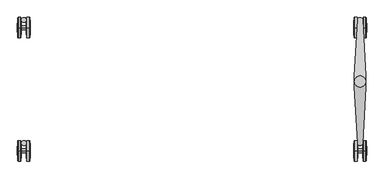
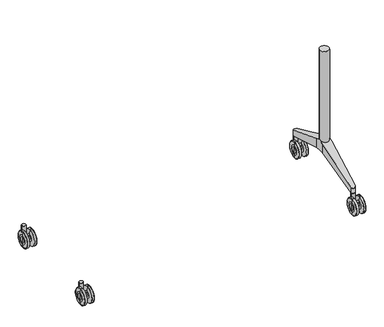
"""IFC4 building model written with IfcOpenShell, lengths in millimetres: furniture geometry."""

from ifc_helpers import new_model, si_unit, point, frame, frame_2d, origin, place, context, project, spatial, polyline, circle_curve, ellipse_curve, trimmed, segment, composite_curve, outline, extrude, source, transform, mapped, element, save
from ifc_brep_helpers import plane_surface, cylinder_surface, revolved_surface, advanced_brep


def furniture_b5b4e11f(model_context):
    return source(origin(), model_context, "Body", "SolidModel", [
        advanced_brep(
        [(630.3656519, 335.7555331, 26.9613134), (630.3656519, 335.7555331, 40.0000164), (630.3656519, 335.7555331, 53.0387194), (632.497176, 335.7555331, 0.8972162), (630.9247587, 335.7555331, 16.1123581), (630.9247587, 335.7555331, 63.8876748), (632.497176, 335.7555331, 79.1028166), (643.4565603, 335.7555331, 1.43e-05), (633.4918783, 335.7555331, 1.43e-05), (633.4918783, 335.7555331, 80.0000185), (643.4565603, 335.7555331, 80.0000185), (645.3656811, 335.7555331, 20.9999281), (645.3656811, 335.7555331, 59.0001048), (645.3656811, 335.7555331, 32.3463502), (645.3656811, 335.7555331, 47.6536826), (665.2657019, 335.7555331, 32.3463502), (665.2657019, 335.7555331, 47.6536826), (665.2657019, 335.7555331, 20.9999281), (665.2657019, 335.7555331, 59.0001048), (667.1748226, 335.7555331, 1.43e-05), (667.1748226, 335.7555331, 80.0000185), (676.2375243, 335.7555331, 1.43e-05), (676.2375243, 335.7555331, 80.0000185), (679.706818, 335.7555331, 16.1142331), (678.2269288, 335.7555331, 1.7944182), (678.2269288, 335.7555331, 78.2056147), (679.706818, 335.7555331, 63.8857997), (680.265731, 335.7555331, 40.0000164), (680.265731, 335.7555331, 26.9594284), (680.265731, 335.7555331, 53.0406045)],
        [
            (0, 1),
            (1, 2),
            (2, 0, circle_curve(frame((630.3656519, 335.7555331, 40.0000164), z_axis=(-1.0, 0.0, 0.0), x_axis=(0.0, 0.0, 1.0)), 13.038703)),
            (0, 2, circle_curve(frame((630.3656519, 335.7555331, 40.0000164), z_axis=(-1.0, 0.0, 0.0), x_axis=(0.0, 0.0, 1.0)), 13.038703)),
            (3, 4),
            (4, 5, circle_curve(frame((630.9247587, 335.7555331, 40.0000164), z_axis=(1.0, 0.0, 0.0), x_axis=(0.0, 0.0, 1.0)), 23.8876584)),
            (5, 6),
            (6, 3, circle_curve(frame((632.497176, 335.7555331, 40.0000164), z_axis=(-1.0, 0.0, 0.0), x_axis=(0.0, 0.0, 1.0)), 39.1028002)),
            (5, 4, circle_curve(frame((630.9247587, 335.7555331, 40.0000164), z_axis=(1.0, 0.0, 0.0), x_axis=(0.0, 0.0, 1.0)), 23.8876584)),
            (3, 6, circle_curve(frame((632.497176, 335.7555331, 40.0000164), z_axis=(-1.0, 0.0, 0.0), x_axis=(0.0, 0.0, 1.0)), 39.1028002)),
            (7, 8),
            (8, 9, circle_curve(frame((633.4918783, 335.7555331, 40.0000164), z_axis=(1.0, 0.0, 0.0), x_axis=(0.0, 0.0, 1.0)), 40.0000021)),
            (9, 10),
            (10, 7, circle_curve(frame((643.4565603, 335.7555331, 40.0000164), z_axis=(-1.0, 0.0, 0.0), x_axis=(0.0, 0.0, 1.0)), 40.0000021)),
            (9, 8, circle_curve(frame((633.4918783, 335.7555331, 40.0000164), z_axis=(1.0, 0.0, 0.0), x_axis=(0.0, 0.0, 1.0)), 40.0000021)),
            (7, 10, circle_curve(frame((643.4565603, 335.7555331, 40.0000164), z_axis=(-1.0, 0.0, 0.0), x_axis=(0.0, 0.0, 1.0)), 40.0000021)),
            (11, 7),
            (10, 12),
            (12, 11, circle_curve(frame((645.3656811, 335.7555331, 40.0000164), z_axis=(-1.0, 0.0, 0.0), x_axis=(0.0, 0.0, 1.0)), 19.0000883)),
            (11, 12, circle_curve(frame((645.3656811, 335.7555331, 40.0000164), z_axis=(-1.0, 0.0, 0.0), x_axis=(0.0, 0.0, 1.0)), 19.0000883)),
            (13, 11),
            (12, 14),
            (14, 13, circle_curve(frame((645.3656811, 335.7555331, 40.0000164), z_axis=(-1.0, 0.0, 0.0), x_axis=(0.0, 0.0, 1.0)), 7.6536662)),
            (13, 14, circle_curve(frame((645.3656811, 335.7555331, 40.0000164), z_axis=(-1.0, 0.0, 0.0), x_axis=(0.0, 0.0, 1.0)), 7.6536662)),
            (15, 13),
            (14, 16),
            (16, 15, circle_curve(frame((665.2657019, 335.7555331, 40.0000164), z_axis=(-1.0, 0.0, 0.0), x_axis=(0.0, 0.0, 1.0)), 7.6536662)),
            (15, 16, circle_curve(frame((665.2657019, 335.7555331, 40.0000164), z_axis=(-1.0, 0.0, 0.0), x_axis=(0.0, 0.0, 1.0)), 7.6536662)),
            (17, 15),
            (16, 18),
            (18, 17, circle_curve(frame((665.2657019, 335.7555331, 40.0000164), z_axis=(-1.0, 0.0, 0.0), x_axis=(0.0, 0.0, 1.0)), 19.0000883)),
            (17, 18, circle_curve(frame((665.2657019, 335.7555331, 40.0000164), z_axis=(-1.0, 0.0, 0.0), x_axis=(0.0, 0.0, 1.0)), 19.0000883)),
            (19, 17),
            (18, 20),
            (20, 19, circle_curve(frame((667.1748226, 335.7555331, 40.0000164), z_axis=(-1.0, 0.0, 0.0), x_axis=(0.0, 0.0, 1.0)), 40.0000021)),
            (19, 20, circle_curve(frame((667.1748226, 335.7555331, 40.0000164), z_axis=(-1.0, 0.0, 0.0), x_axis=(0.0, 0.0, 1.0)), 40.0000021)),
            (21, 19),
            (20, 22),
            (22, 21, circle_curve(frame((676.2375243, 335.7555331, 40.0000164), z_axis=(-1.0, 0.0, 0.0), x_axis=(0.0, 0.0, 1.0)), 40.0000021)),
            (21, 22, circle_curve(frame((676.2375243, 335.7555331, 40.0000164), z_axis=(-1.0, 0.0, 0.0), x_axis=(0.0, 0.0, 1.0)), 40.0000021)),
            (23, 24),
            (24, 25, circle_curve(frame((678.2269288, 335.7555331, 40.0000164), z_axis=(1.0, 0.0, 0.0), x_axis=(0.0, 0.0, 1.0)), 38.2055982)),
            (25, 26),
            (26, 23, circle_curve(frame((679.706818, 335.7555331, 40.0000164), z_axis=(-1.0, 0.0, 0.0), x_axis=(0.0, 0.0, 1.0)), 23.8857833)),
            (25, 24, circle_curve(frame((678.2269288, 335.7555331, 40.0000164), z_axis=(1.0, 0.0, 0.0), x_axis=(0.0, 0.0, 1.0)), 38.2055982)),
            (23, 26, circle_curve(frame((679.706818, 335.7555331, 40.0000164), z_axis=(-1.0, 0.0, 0.0), x_axis=(0.0, 0.0, 1.0)), 23.8857833)),
            (27, 28),
            (28, 29, circle_curve(frame((680.265731, 335.7555331, 40.0000164), z_axis=(1.0, 0.0, 0.0), x_axis=(0.0, 0.0, 1.0)), 13.0405881)),
            (29, 27),
            (29, 28, circle_curve(frame((680.265731, 335.7555331, 40.0000164), z_axis=(1.0, 0.0, 0.0), x_axis=(0.0, 0.0, 1.0)), 13.0405881)),
            (4, 0, circle_curve(frame((735.9022296, 335.7555331, 26.9613134), z_axis=(0.0, 1.0000000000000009, 0.0), x_axis=(-1.0000000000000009, 0.0, 0.0)), 105.5365777)),
            (2, 5, circle_curve(frame((735.9022296, 335.7555331, 53.0387194), z_axis=(0.0, 1.0000000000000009, 0.0), x_axis=(-1.0000000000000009, 0.0, 0.0)), 105.5365777)),
            (8, 3, circle_curve(frame((633.4918783, 335.7555331, 1.0000143), z_axis=(0.0, 1.0000000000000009, 0.0), x_axis=(-1.0000000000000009, 0.0, 0.0)), 1.0)),
            (6, 9, circle_curve(frame((633.4918783, 335.7555331, 79.0000185), z_axis=(0.0, 1.0000000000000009, 0.0), x_axis=(-1.0000000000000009, 0.0, 0.0)), 1.0)),
            (24, 21, circle_curve(frame((676.2375243, 335.7555331, 2.0000143), z_axis=(0.0, 1.0000000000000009, 0.0), x_axis=(-1.0000000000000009, 0.0, 0.0)), 2.0)),
            (22, 25, circle_curve(frame((676.2375243, 335.7555331, 78.0000185), z_axis=(0.0, 1.0000000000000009, 0.0), x_axis=(-1.0000000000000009, 0.0, 0.0)), 2.0)),
            (28, 23, circle_curve(frame((574.765731, 335.7555331, 26.9594284), z_axis=(0.0, 1.0000000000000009, 0.0), x_axis=(-1.0000000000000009, 0.0, 0.0)), 105.5)),
            (26, 29, circle_curve(frame((574.765731, 335.7555331, 53.0406045), z_axis=(0.0, 1.0000000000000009, 0.0), x_axis=(-1.0000000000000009, 0.0, 0.0)), 105.5)),
        ],
        [
            plane_surface(frame((630.3656519, 335.7555331, 40.0000164), z_axis=(-1.0, 0.0, 0.0), x_axis=(0.0, 0.0, 1.0))),
            revolved_surface(polyline([(630.9247587, 335.7555331, 63.8876748), (632.497176, 335.7555331, 79.1028166)]), (696.0657036, 335.7555331, 40.0000164), (1.0000000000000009, 0.0, 0.0)),
            cylinder_surface(frame((696.0657036, 335.7555331, 40.0000164), z_axis=(1.0000000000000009, 0.0, 0.0), x_axis=(0.0, 0.0, 1.0)), 40.0000021),
            revolved_surface(polyline([(643.4565603, 335.7555331, 80.0000185), (645.3656811, 335.7555331, 59.0001048)]), (696.0657036, 335.7555331, 40.0000164), (1.0000000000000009, 0.0, 0.0)),
            plane_surface(frame((645.3656811, 335.7555331, 40.0000164), z_axis=(1.0, 0.0, 0.0), x_axis=(0.0, 0.0, 1.0))),
            cylinder_surface(frame((696.0657036, 335.7555331, 40.0000164), z_axis=(1.0000000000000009, 0.0, 0.0), x_axis=(0.0, 0.0, 1.0)), 7.6536662),
            plane_surface(frame((665.2657019, 335.7555331, 40.0000164), z_axis=(-1.0, 0.0, 0.0), x_axis=(0.0, 0.0, 1.0))),
            revolved_surface(polyline([(665.2657019, 335.7555331, 59.0001048), (667.1748226, 335.7555331, 80.0000185)]), (696.0657036, 335.7555331, 40.0000164), (1.0000000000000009, 0.0, 0.0)),
            revolved_surface(polyline([(678.2269288, 335.7555331, 78.2056147), (679.706818, 335.7555331, 63.8857997)]), (696.0657036, 335.7555331, 40.0000164), (1.0000000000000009, 0.0, 0.0)),
            plane_surface(frame((680.265731, 335.7555331, 40.0000164), z_axis=(1.0, 0.0, 0.0), x_axis=(0.0, 0.0, 1.0))),
            revolved_surface(trimmed(ellipse_curve(frame((735.9022296, 335.7555331, 53.0387194), z_axis=(0.0, 1.0000000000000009, 0.0), x_axis=(-1.0000000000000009, 0.0, 0.0)), 105.5365777, 105.5365777), [point((630.3656519, 335.7555331, 53.0387194))], [point((630.9247587, 335.7555331, 63.8876748))], True, "CARTESIAN"), (696.0657036, 335.7555331, 40.0000164), (1.0000000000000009, 0.0, 0.0)),
            revolved_surface(trimmed(ellipse_curve(frame((633.4918783, 335.7555331, 79.0000185), z_axis=(0.0, 1.0000000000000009, 0.0), x_axis=(-1.0000000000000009, 0.0, 0.0)), 1.0, 1.0), [point((632.497176, 335.7555331, 79.1028166))], [point((633.4918783, 335.7555331, 80.0000185))], True, "CARTESIAN"), (696.0657036, 335.7555331, 40.0000164), (1.0000000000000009, 0.0, 0.0)),
            revolved_surface(trimmed(ellipse_curve(frame((676.2375243, 335.7555331, 78.0000185), z_axis=(0.0, 1.0000000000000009, 0.0), x_axis=(-1.0000000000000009, 0.0, 0.0)), 2.0, 2.0), [point((676.2375243, 335.7555331, 80.0000185))], [point((678.2269288, 335.7555331, 78.2056147))], True, "CARTESIAN"), (696.0657036, 335.7555331, 40.0000164), (1.0000000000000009, 0.0, 0.0)),
            revolved_surface(trimmed(ellipse_curve(frame((574.765731, 335.7555331, 53.0406045), z_axis=(0.0, 1.0000000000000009, 0.0), x_axis=(-1.0000000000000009, 0.0, 0.0)), 105.5, 105.5), [point((679.706818, 335.7555331, 63.8857997))], [point((680.265731, 335.7555331, 53.0406045))], True, "CARTESIAN"), (696.0657036, 335.7555331, 40.0000164), (1.0000000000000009, 0.0, 0.0)),
        ],
        [
            (0, [[1, 2, 3]]),
            (0, [[-2, -1, 4]]),
            (1, [[5, 6, 7, 8]]),
            (1, [[-7, 9, -5, 10]]),
            (2, [[11, 12, 13, 14]]),
            (2, [[-13, 15, -11, 16]]),
            (3, [[17, -14, 18, 19]]),
            (3, [[-18, -16, -17, 20]]),
            (4, [[21, -19, 22, 23]]),
            (4, [[-22, -20, -21, 24]]),
            (5, [[25, -23, 26, 27]]),
            (5, [[-26, -24, -25, 28]]),
            (6, [[29, -27, 30, 31]]),
            (6, [[-30, -28, -29, 32]]),
            (7, [[33, -31, 34, 35]]),
            (7, [[-34, -32, -33, 36]]),
            (2, [[37, -35, 38, 39]]),
            (2, [[-38, -36, -37, 40]]),
            (8, [[41, 42, 43, 44]]),
            (8, [[-43, 45, -41, 46]]),
            (9, [[47, 48, 49]]),
            (9, [[-49, 50, -47]]),
            (10, [[51, -3, 52, -6]]),
            (10, [[-52, -4, -51, -9]]),
            (11, [[53, -8, 54, -12]]),
            (11, [[-54, -10, -53, -15]]),
            (12, [[55, -39, 56, -42]]),
            (12, [[-56, -40, -55, -45]]),
            (13, [[57, -44, 58, -48]]),
            (13, [[-58, -46, -57, -50]]),
        ],
    ),
        extrude(outline(composite_curve([segment(trimmed(circle_curve(frame_2d((655.4514741, 365.8520513)), 9.5), [point((664.9514741, 365.8520513))], [point((645.9514741, 365.8520513))], False, "CARTESIAN"), True, "CONTINUOUS"), segment(trimmed(circle_curve(frame_2d((655.4514741, 365.8520513)), 9.5), [point((645.9514741, 365.8520513))], [point((664.9514741, 365.8520513))], False, "CARTESIAN"), True, "CONTINUOUS")], self_intersect=False)), frame((0.0, 0.0, 50.0000143), z_axis=(0.0, 0.0, 1.0), x_axis=(1.0, 0.0, 0.0)), (0.0, 0.0, 1.0), 39.0),
        advanced_brep(
        [(630.3656519, -144.048844, 26.9613134), (630.3656519, -144.048844, 40.0000164), (630.3656519, -144.048844, 53.0387194), (632.497176, -144.048844, 0.8972162), (630.9247587, -144.048844, 16.1123581), (630.9247587, -144.048844, 63.8876748), (632.497176, -144.048844, 79.1028166), (643.4565603, -144.048844, 1.43e-05), (633.4918783, -144.048844, 1.43e-05), (633.4918783, -144.048844, 80.0000185), (643.4565603, -144.048844, 80.0000185), (645.3656811, -144.048844, 20.9999281), (645.3656811, -144.048844, 59.0001048), (645.3656811, -144.048844, 32.3463502), (645.3656811, -144.048844, 47.6536826), (665.2657019, -144.048844, 32.3463502), (665.2657019, -144.048844, 47.6536826), (665.2657019, -144.048844, 20.9999281), (665.2657019, -144.048844, 59.0001048), (667.1748226, -144.048844, 1.43e-05), (667.1748226, -144.048844, 80.0000185), (676.2375243, -144.048844, 1.43e-05), (676.2375243, -144.048844, 80.0000185), (679.706818, -144.048844, 16.1142331), (678.2269288, -144.048844, 1.7944182), (678.2269288, -144.048844, 78.2056147), (679.706818, -144.048844, 63.8857997), (680.265731, -144.048844, 40.0000164), (680.265731, -144.048844, 26.9594284), (680.265731, -144.048844, 53.0406045)],
        [
            (0, 1),
            (1, 2),
            (2, 0, circle_curve(frame((630.3656519, -144.048844, 40.0000164), z_axis=(-1.0, 0.0, 0.0), x_axis=(0.0, 0.0, 1.0)), 13.038703)),
            (0, 2, circle_curve(frame((630.3656519, -144.048844, 40.0000164), z_axis=(-1.0, 0.0, 0.0), x_axis=(0.0, 0.0, 1.0)), 13.038703)),
            (3, 4),
            (4, 5, circle_curve(frame((630.9247587, -144.048844, 40.0000164), z_axis=(1.0, 0.0, 0.0), x_axis=(0.0, 0.0, 1.0)), 23.8876584)),
            (5, 6),
            (6, 3, circle_curve(frame((632.497176, -144.048844, 40.0000164), z_axis=(-1.0, 0.0, 0.0), x_axis=(0.0, 0.0, 1.0)), 39.1028002)),
            (5, 4, circle_curve(frame((630.9247587, -144.048844, 40.0000164), z_axis=(1.0, 0.0, 0.0), x_axis=(0.0, 0.0, 1.0)), 23.8876584)),
            (3, 6, circle_curve(frame((632.497176, -144.048844, 40.0000164), z_axis=(-1.0, 0.0, 0.0), x_axis=(0.0, 0.0, 1.0)), 39.1028002)),
            (7, 8),
            (8, 9, circle_curve(frame((633.4918783, -144.048844, 40.0000164), z_axis=(1.0, 0.0, 0.0), x_axis=(0.0, 0.0, 1.0)), 40.0000021)),
            (9, 10),
            (10, 7, circle_curve(frame((643.4565603, -144.048844, 40.0000164), z_axis=(-1.0, 0.0, 0.0), x_axis=(0.0, 0.0, 1.0)), 40.0000021)),
            (9, 8, circle_curve(frame((633.4918783, -144.048844, 40.0000164), z_axis=(1.0, 0.0, 0.0), x_axis=(0.0, 0.0, 1.0)), 40.0000021)),
            (7, 10, circle_curve(frame((643.4565603, -144.048844, 40.0000164), z_axis=(-1.0, 0.0, 0.0), x_axis=(0.0, 0.0, 1.0)), 40.0000021)),
            (11, 7),
            (10, 12),
            (12, 11, circle_curve(frame((645.3656811, -144.048844, 40.0000164), z_axis=(-1.0, 0.0, 0.0), x_axis=(0.0, 0.0, 1.0)), 19.0000883)),
            (11, 12, circle_curve(frame((645.3656811, -144.048844, 40.0000164), z_axis=(-1.0, 0.0, 0.0), x_axis=(0.0, 0.0, 1.0)), 19.0000883)),
            (13, 11),
            (12, 14),
            (14, 13, circle_curve(frame((645.3656811, -144.048844, 40.0000164), z_axis=(-1.0, 0.0, 0.0), x_axis=(0.0, 0.0, 1.0)), 7.6536662)),
            (13, 14, circle_curve(frame((645.3656811, -144.048844, 40.0000164), z_axis=(-1.0, 0.0, 0.0), x_axis=(0.0, 0.0, 1.0)), 7.6536662)),
            (15, 13),
            (14, 16),
            (16, 15, circle_curve(frame((665.2657019, -144.048844, 40.0000164), z_axis=(-1.0, 0.0, 0.0), x_axis=(0.0, 0.0, 1.0)), 7.6536662)),
            (15, 16, circle_curve(frame((665.2657019, -144.048844, 40.0000164), z_axis=(-1.0, 0.0, 0.0), x_axis=(0.0, 0.0, 1.0)), 7.6536662)),
            (17, 15),
            (16, 18),
            (18, 17, circle_curve(frame((665.2657019, -144.048844, 40.0000164), z_axis=(-1.0, 0.0, 0.0), x_axis=(0.0, 0.0, 1.0)), 19.0000883)),
            (17, 18, circle_curve(frame((665.2657019, -144.048844, 40.0000164), z_axis=(-1.0, 0.0, 0.0), x_axis=(0.0, 0.0, 1.0)), 19.0000883)),
            (19, 17),
            (18, 20),
            (20, 19, circle_curve(frame((667.1748226, -144.048844, 40.0000164), z_axis=(-1.0, 0.0, 0.0), x_axis=(0.0, 0.0, 1.0)), 40.0000021)),
            (19, 20, circle_curve(frame((667.1748226, -144.048844, 40.0000164), z_axis=(-1.0, 0.0, 0.0), x_axis=(0.0, 0.0, 1.0)), 40.0000021)),
            (21, 19),
            (20, 22),
            (22, 21, circle_curve(frame((676.2375243, -144.048844, 40.0000164), z_axis=(-1.0, 0.0, 0.0), x_axis=(0.0, 0.0, 1.0)), 40.0000021)),
            (21, 22, circle_curve(frame((676.2375243, -144.048844, 40.0000164), z_axis=(-1.0, 0.0, 0.0), x_axis=(0.0, 0.0, 1.0)), 40.0000021)),
            (23, 24),
            (24, 25, circle_curve(frame((678.2269288, -144.048844, 40.0000164), z_axis=(1.0, 0.0, 0.0), x_axis=(0.0, 0.0, 1.0)), 38.2055982)),
            (25, 26),
            (26, 23, circle_curve(frame((679.706818, -144.048844, 40.0000164), z_axis=(-1.0, 0.0, 0.0), x_axis=(0.0, 0.0, 1.0)), 23.8857833)),
            (25, 24, circle_curve(frame((678.2269288, -144.048844, 40.0000164), z_axis=(1.0, 0.0, 0.0), x_axis=(0.0, 0.0, 1.0)), 38.2055982)),
            (23, 26, circle_curve(frame((679.706818, -144.048844, 40.0000164), z_axis=(-1.0, 0.0, 0.0), x_axis=(0.0, 0.0, 1.0)), 23.8857833)),
            (27, 28),
            (28, 29, circle_curve(frame((680.265731, -144.048844, 40.0000164), z_axis=(1.0, 0.0, 0.0), x_axis=(0.0, 0.0, 1.0)), 13.0405881)),
            (29, 27),
            (29, 28, circle_curve(frame((680.265731, -144.048844, 40.0000164), z_axis=(1.0, 0.0, 0.0), x_axis=(0.0, 0.0, 1.0)), 13.0405881)),
            (4, 0, circle_curve(frame((735.9022296, -144.048844, 26.9613134), z_axis=(0.0, 1.0, 0.0), x_axis=(-1.0, 0.0, 0.0)), 105.5365777)),
            (2, 5, circle_curve(frame((735.9022296, -144.048844, 53.0387194), z_axis=(0.0, 1.0, 0.0), x_axis=(-1.0, 0.0, 0.0)), 105.5365777)),
            (8, 3, circle_curve(frame((633.4918783, -144.048844, 1.0000143), z_axis=(0.0, 1.0, 0.0), x_axis=(-1.0, 0.0, 0.0)), 1.0)),
            (6, 9, circle_curve(frame((633.4918783, -144.048844, 79.0000185), z_axis=(0.0, 1.0, 0.0), x_axis=(-1.0, 0.0, 0.0)), 1.0)),
            (24, 21, circle_curve(frame((676.2375243, -144.048844, 2.0000143), z_axis=(0.0, 1.0, 0.0), x_axis=(-1.0, 0.0, 0.0)), 2.0)),
            (22, 25, circle_curve(frame((676.2375243, -144.048844, 78.0000185), z_axis=(0.0, 1.0, 0.0), x_axis=(-1.0, 0.0, 0.0)), 2.0)),
            (28, 23, circle_curve(frame((574.765731, -144.048844, 26.9594284), z_axis=(0.0, 1.0, 0.0), x_axis=(-1.0, 0.0, 0.0)), 105.5)),
            (26, 29, circle_curve(frame((574.765731, -144.048844, 53.0406045), z_axis=(0.0, 1.0, 0.0), x_axis=(-1.0, 0.0, 0.0)), 105.5)),
        ],
        [
            plane_surface(frame((630.3656519, -144.048844, 40.0000164), z_axis=(-1.0, 0.0, 0.0), x_axis=(0.0, 0.0, 1.0))),
            revolved_surface(polyline([(630.9247587, -144.048844, 63.8876748), (632.497176, -144.048844, 79.1028166)]), (696.0657036, -144.048844, 40.0000164), (1.0, 0.0, 0.0)),
            cylinder_surface(frame((696.0657036, -144.048844, 40.0000164), z_axis=(1.0, 0.0, 0.0), x_axis=(0.0, 0.0, 1.0)), 40.0000021),
            revolved_surface(polyline([(643.4565603, -144.048844, 80.0000185), (645.3656811, -144.048844, 59.0001048)]), (696.0657036, -144.048844, 40.0000164), (1.0, 0.0, 0.0)),
            plane_surface(frame((645.3656811, -144.048844, 40.0000164), z_axis=(1.0, 0.0, 0.0), x_axis=(0.0, 0.0, 1.0))),
            cylinder_surface(frame((696.0657036, -144.048844, 40.0000164), z_axis=(1.0, 0.0, 0.0), x_axis=(0.0, 0.0, 1.0)), 7.6536662),
            plane_surface(frame((665.2657019, -144.048844, 40.0000164), z_axis=(-1.0, 0.0, 0.0), x_axis=(0.0, 0.0, 1.0))),
            revolved_surface(polyline([(665.2657019, -144.048844, 59.0001048), (667.1748226, -144.048844, 80.0000185)]), (696.0657036, -144.048844, 40.0000164), (1.0, 0.0, 0.0)),
            revolved_surface(polyline([(678.2269288, -144.048844, 78.2056147), (679.706818, -144.048844, 63.8857997)]), (696.0657036, -144.048844, 40.0000164), (1.0, 0.0, 0.0)),
            plane_surface(frame((680.265731, -144.048844, 40.0000164), z_axis=(1.0, 0.0, 0.0), x_axis=(0.0, 0.0, 1.0))),
            revolved_surface(trimmed(ellipse_curve(frame((735.9022296, -144.048844, 53.0387194), z_axis=(0.0, 1.0, 0.0), x_axis=(-1.0, 0.0, 0.0)), 105.5365777, 105.5365777), [point((630.3656519, -144.048844, 53.0387194))], [point((630.9247587, -144.048844, 63.8876748))], True, "CARTESIAN"), (696.0657036, -144.048844, 40.0000164), (1.0, 0.0, 0.0)),
            revolved_surface(trimmed(ellipse_curve(frame((633.4918783, -144.048844, 79.0000185), z_axis=(0.0, 1.0, 0.0), x_axis=(-1.0, 0.0, 0.0)), 1.0, 1.0), [point((632.497176, -144.048844, 79.1028166))], [point((633.4918783, -144.048844, 80.0000185))], True, "CARTESIAN"), (696.0657036, -144.048844, 40.0000164), (1.0, 0.0, 0.0)),
            revolved_surface(trimmed(ellipse_curve(frame((676.2375243, -144.048844, 78.0000185), z_axis=(0.0, 1.0, 0.0), x_axis=(-1.0, 0.0, 0.0)), 2.0, 2.0), [point((676.2375243, -144.048844, 80.0000185))], [point((678.2269288, -144.048844, 78.2056147))], True, "CARTESIAN"), (696.0657036, -144.048844, 40.0000164), (1.0, 0.0, 0.0)),
            revolved_surface(trimmed(ellipse_curve(frame((574.765731, -144.048844, 53.0406045), z_axis=(0.0, 1.0, 0.0), x_axis=(-1.0, 0.0, 0.0)), 105.5, 105.5), [point((679.706818, -144.048844, 63.8857997))], [point((680.265731, -144.048844, 53.0406045))], True, "CARTESIAN"), (696.0657036, -144.048844, 40.0000164), (1.0, 0.0, 0.0)),
        ],
        [
            (0, [[1, 2, 3]]),
            (0, [[-2, -1, 4]]),
            (1, [[5, 6, 7, 8]]),
            (1, [[-7, 9, -5, 10]]),
            (2, [[11, 12, 13, 14]]),
            (2, [[-13, 15, -11, 16]]),
            (3, [[17, -14, 18, 19]]),
            (3, [[-18, -16, -17, 20]]),
            (4, [[21, -19, 22, 23]]),
            (4, [[-22, -20, -21, 24]]),
            (5, [[25, -23, 26, 27]]),
            (5, [[-26, -24, -25, 28]]),
            (6, [[29, -27, 30, 31]]),
            (6, [[-30, -28, -29, 32]]),
            (7, [[33, -31, 34, 35]]),
            (7, [[-34, -32, -33, 36]]),
            (2, [[37, -35, 38, 39]]),
            (2, [[-38, -36, -37, 40]]),
            (8, [[41, 42, 43, 44]]),
            (8, [[-43, 45, -41, 46]]),
            (9, [[47, 48, 49]]),
            (9, [[-49, 50, -47]]),
            (10, [[51, -3, 52, -6]]),
            (10, [[-52, -4, -51, -9]]),
            (11, [[53, -8, 54, -12]]),
            (11, [[-54, -10, -53, -15]]),
            (12, [[55, -39, 56, -42]]),
            (12, [[-56, -40, -55, -45]]),
            (13, [[57, -44, 58, -48]]),
            (13, [[-58, -46, -57, -50]]),
        ],
    ),
        extrude(outline(composite_curve([segment(trimmed(circle_curve(frame_2d((655.4514741, -113.9523258)), 9.5), [point((664.9514741, -113.9523258))], [point((645.9514741, -113.9523258))], False, "CARTESIAN"), True, "CONTINUOUS"), segment(trimmed(circle_curve(frame_2d((655.4514741, -113.9523258)), 9.5), [point((645.9514741, -113.9523258))], [point((664.9514741, -113.9523258))], False, "CARTESIAN"), True, "CONTINUOUS")], self_intersect=False)), frame((0.0, 0.0, 50.0000143), z_axis=(0.0, 0.0, 1.0), x_axis=(1.0, 0.0, 0.0)), (0.0, 0.0, 1.0), 39.0),
        advanced_brep(
        [(632.7657234, 148.4511551, 210.360006), (632.7657234, 148.4511551, 165.9000199), (632.7657234, 125.9511544, 165.9000199), (632.7657234, 103.4511538, 165.9000199), (632.7657234, 103.4511538, 210.360006), (632.7657234, 125.9511544, 219.9000124), (677.7657383, 148.4511551, 165.9000199), (677.7657383, 148.4511551, 210.360006), (677.7657383, 125.9511544, 219.9000124), (677.7657383, 103.4511538, 210.360006), (677.7657383, 103.4511538, 165.9000199), (677.7657383, 125.9511544, 165.9000199), (645.227182, -113.0675149, 88.8098467), (665.3042073, -113.0675149, 88.8098467), (645.2821683, -114.0242798, 118.1504308), (665.2492204, -114.0242831, 118.1504294), (665.2492204, -114.0242831, 88.8098467), (645.2821683, -114.0242798, 88.8098467), (645.227182, 364.9698238, 88.8098467), (645.2821683, 365.9265887, 88.8098467), (665.2492204, 365.926592, 88.8098467), (665.3042073, 364.9698238, 88.8098467), (665.2492204, 365.926592, 118.1504294), (645.2821683, 365.9265887, 118.1504308)],
        [
            (0, 1),
            (1, 2),
            (2, 3),
            (3, 4),
            (4, 5),
            (5, 0),
            (6, 7),
            (7, 8),
            (8, 9),
            (9, 10),
            (10, 11),
            (11, 6),
            (2, 11),
            (10, 3),
            (1, 6),
            (12, 3),
            (10, 13),
            (13, 12),
            (14, 15, ellipse_curve(frame((655.2656945, -113.4505156, 118.3937069), z_axis=(0.0, -0.39036065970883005, 0.9206620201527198), x_axis=(0.0, -0.9206620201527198, -0.3903606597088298)), 10.8617492, 10.0)),
            (15, 9),
            (8, 5),
            (4, 14),
            (13, 16),
            (16, 17, circle_curve(frame((655.2656945, -113.4505156, 88.8098467), z_axis=(0.0, 0.0, -1.0), x_axis=(-1.0, 0.0, 0.0)), 10.0)),
            (17, 12),
            (18, 19),
            (19, 20, circle_curve(frame((655.2656945, 365.3528245, 88.8098467), z_axis=(0.0, 0.0, -1.0), x_axis=(-1.0, 0.0, 0.0)), 10.0)),
            (20, 21),
            (21, 18),
            (7, 22),
            (22, 23, ellipse_curve(frame((655.2656945, 365.3528245, 118.3937069), z_axis=(0.0, 0.39036065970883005, 0.9206620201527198), x_axis=(0.0, 0.9206620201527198, -0.3903606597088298)), 10.8617492, 10.0)),
            (23, 0),
            (21, 6),
            (1, 18),
            (23, 19),
            (20, 22),
            (17, 14),
            (16, 15),
        ],
        [
            plane_surface(frame((632.7657234, 148.4511551, 210.360006), z_axis=(-1.0, 0.0, 0.0), x_axis=(0.0, -0.9206619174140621, 0.3903609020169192))),
            plane_surface(frame((677.7657383, 148.4511551, 210.360006), z_axis=(1.0, 0.0, 0.0), x_axis=(0.0, 0.9206619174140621, -0.3903609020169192))),
            plane_surface(frame((632.7657234, 103.4511538, 165.9000199), z_axis=(0.0, 0.0, -1.0), x_axis=(1.0, 0.0, 0.0))),
            plane_surface(frame((632.7657234, 125.9511544, 165.9000199), z_axis=(0.0, 0.0, -1.0), x_axis=(1.0, 0.0, 0.0))),
            plane_surface(frame((632.7657234, -113.0675149, 88.8098467), z_axis=(0.0, 0.33541814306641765, -0.9420693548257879), x_axis=(1.0, 0.0, 0.0))),
            plane_surface(frame((632.7657234, 103.4511538, 210.360006), z_axis=(0.0, -0.39036065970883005, 0.9206620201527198), x_axis=(1.0, 0.0, 0.0))),
            plane_surface(frame((632.7657234, -124.5346363, 88.8098467), z_axis=(0.0, 0.0, -1.0), x_axis=(1.0, 0.0, 0.0))),
            plane_surface(frame((632.7657234, 364.9698238, 88.8098467), z_axis=(0.0, 0.0, -1.0), x_axis=(1.0, 0.0, 0.0))),
            plane_surface(frame((632.7657234, 376.4369452, 113.6940401), z_axis=(0.0, 0.39036065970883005, 0.9206620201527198), x_axis=(1.0, 0.0, 0.0))),
            plane_surface(frame((632.7657234, 148.4511551, 165.9000199), z_axis=(0.0, -0.33541814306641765, -0.9420693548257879), x_axis=(1.0, 0.0, 0.0))),
            plane_surface(frame((645.2821683, 365.9265887, 234.8098558), z_axis=(-0.9983526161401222, 0.0573764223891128, 0.0), x_axis=(0.0, 0.0, -1.0))),
            plane_surface(frame((677.7478455, 148.4511551, 234.8098558), z_axis=(0.9983525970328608, 0.0573767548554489, 0.0), x_axis=(0.0, 0.0, -1.0))),
            cylinder_surface(frame((655.2656945, 365.3528245, 75.8098498), z_axis=(0.0, 0.0, -1.0), x_axis=(-1.0, 0.0, 0.0)), 10.0),
            plane_surface(frame((632.7836161, 103.4511538, 234.8098558), z_axis=(-0.9983526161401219, -0.05737642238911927, 0.0), x_axis=(0.0, 0.0, -1.0))),
            cylinder_surface(frame((655.2656945, -113.4505156, -14.1901527), z_axis=(0.0, 0.0, -1.0), x_axis=(-1.0, 0.0, 0.0)), 10.0),
            plane_surface(frame((665.2492204, -114.0242831, 234.8098558), z_axis=(0.9983525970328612, -0.05737675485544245, 0.0), x_axis=(0.0, 0.0, -1.0))),
        ],
        [
            (0, [[1, 2, 3, 4, 5, 6]]),
            (1, [[7, 8, 9, 10, 11, 12]]),
            (2, [[13, -11, 14, -3]]),
            (3, [[15, -12, -13, -2]]),
            (4, [[16, -14, 17, 18]]),
            (5, [[19, 20, -9, 21, -5, 22]]),
            (6, [[23, 24, 25, -18]]),
            (7, [[26, 27, 28, 29]]),
            (8, [[-6, -21, -8, 30, 31, 32]]),
            (9, [[33, -15, 34, -29]]),
            (10, [[-26, -34, -1, -32, 35]]),
            (11, [[-30, -7, -33, -28, 36]]),
            (12, [[-31, -36, -27, -35]]),
            (13, [[-22, -4, -16, -25, 37]]),
            (14, [[-24, 38, -19, -37]]),
            (15, [[-23, -17, -10, -20, -38]]),
        ],
    ),
        extrude(outline(composite_curve([segment(trimmed(circle_curve(frame_2d((655.2657309, 125.9511544)), 22.0), [point((677.2657309, 125.9511544))], [point((633.2657309, 125.9511544))], False, "CARTESIAN"), True, "CONTINUOUS"), segment(trimmed(circle_curve(frame_2d((655.2657309, 125.9511544)), 22.0), [point((633.2657309, 125.9511544))], [point((677.2657309, 125.9511544))], False, "CARTESIAN"), True, "CONTINUOUS")], self_intersect=False)), frame((0.0, 0.0, 165.9000199), z_axis=(0.0, 0.0, 1.0), x_axis=(1.0, 0.0, 0.0)), (0.0, 0.0, 1.0), 509.3499944),
        advanced_brep(
        [(-630.3656519, 335.7555331, 26.9613134), (-630.3656519, 335.7555331, 53.0387194), (-630.3656519, 335.7555331, 40.0000164), (-632.497176, 335.7555331, 0.8972162), (-632.497176, 335.7555331, 79.1028166), (-630.9247587, 335.7555331, 63.8876748), (-630.9247587, 335.7555331, 16.1123581), (-643.4565603, 335.7555331, 1.43e-05), (-643.4565603, 335.7555331, 80.0000185), (-633.4918783, 335.7555331, 80.0000185), (-633.4918783, 335.7555331, 1.43e-05), (-645.3656811, 335.7555331, 20.9999281), (-645.3656811, 335.7555331, 59.0001048), (-645.3656811, 335.7555331, 32.3463502), (-645.3656811, 335.7555331, 47.6536826), (-665.2657019, 335.7555331, 32.3463502), (-665.2657019, 335.7555331, 47.6536826), (-665.2657019, 335.7555331, 20.9999281), (-665.2657019, 335.7555331, 59.0001048), (-667.1748226, 335.7555331, 1.43e-05), (-667.1748226, 335.7555331, 80.0000185), (-676.2375243, 335.7555331, 1.43e-05), (-676.2375243, 335.7555331, 80.0000185), (-679.706818, 335.7555331, 16.1142331), (-679.706818, 335.7555331, 63.8857997), (-678.2269288, 335.7555331, 78.2056147), (-678.2269288, 335.7555331, 1.7944182), (-680.265731, 335.7555331, 40.0000164), (-680.265731, 335.7555331, 53.0406045), (-680.265731, 335.7555331, 26.9594284)],
        [
            (0, 1, circle_curve(frame((-630.3656519, 335.7555331, 40.0000164), z_axis=(1.0, 0.0, 0.0), x_axis=(0.0, 0.0, 1.0)), 13.038703)),
            (1, 2),
            (2, 0),
            (1, 0, circle_curve(frame((-630.3656519, 335.7555331, 40.0000164), z_axis=(1.0, 0.0, 0.0), x_axis=(0.0, 0.0, 1.0)), 13.038703)),
            (3, 4, circle_curve(frame((-632.497176, 335.7555331, 40.0000164), z_axis=(1.0, 0.0, 0.0), x_axis=(0.0, 0.0, 1.0)), 39.1028002)),
            (4, 5),
            (5, 6, circle_curve(frame((-630.9247587, 335.7555331, 40.0000164), z_axis=(-1.0, 0.0, 0.0), x_axis=(0.0, 0.0, 1.0)), 23.8876584)),
            (6, 3),
            (4, 3, circle_curve(frame((-632.497176, 335.7555331, 40.0000164), z_axis=(1.0, 0.0, 0.0), x_axis=(0.0, 0.0, 1.0)), 39.1028002)),
            (6, 5, circle_curve(frame((-630.9247587, 335.7555331, 40.0000164), z_axis=(-1.0, 0.0, 0.0), x_axis=(0.0, 0.0, 1.0)), 23.8876584)),
            (7, 8, circle_curve(frame((-643.4565603, 335.7555331, 40.0000164), z_axis=(1.0, 0.0, 0.0), x_axis=(0.0, 0.0, 1.0)), 40.0000021)),
            (8, 9),
            (9, 10, circle_curve(frame((-633.4918783, 335.7555331, 40.0000164), z_axis=(-1.0, 0.0, 0.0), x_axis=(0.0, 0.0, 1.0)), 40.0000021)),
            (10, 7),
            (8, 7, circle_curve(frame((-643.4565603, 335.7555331, 40.0000164), z_axis=(1.0, 0.0, 0.0), x_axis=(0.0, 0.0, 1.0)), 40.0000021)),
            (10, 9, circle_curve(frame((-633.4918783, 335.7555331, 40.0000164), z_axis=(-1.0, 0.0, 0.0), x_axis=(0.0, 0.0, 1.0)), 40.0000021)),
            (11, 12, circle_curve(frame((-645.3656811, 335.7555331, 40.0000164), z_axis=(1.0, 0.0, 0.0), x_axis=(0.0, 0.0, 1.0)), 19.0000883)),
            (12, 8),
            (7, 11),
            (12, 11, circle_curve(frame((-645.3656811, 335.7555331, 40.0000164), z_axis=(1.0, 0.0, 0.0), x_axis=(0.0, 0.0, 1.0)), 19.0000883)),
            (13, 14, circle_curve(frame((-645.3656811, 335.7555331, 40.0000164), z_axis=(1.0, 0.0, 0.0), x_axis=(0.0, 0.0, 1.0)), 7.6536662)),
            (14, 12),
            (11, 13),
            (14, 13, circle_curve(frame((-645.3656811, 335.7555331, 40.0000164), z_axis=(1.0, 0.0, 0.0), x_axis=(0.0, 0.0, 1.0)), 7.6536662)),
            (15, 16, circle_curve(frame((-665.2657019, 335.7555331, 40.0000164), z_axis=(1.0, 0.0, 0.0), x_axis=(0.0, 0.0, 1.0)), 7.6536662)),
            (16, 14),
            (13, 15),
            (16, 15, circle_curve(frame((-665.2657019, 335.7555331, 40.0000164), z_axis=(1.0, 0.0, 0.0), x_axis=(0.0, 0.0, 1.0)), 7.6536662)),
            (17, 18, circle_curve(frame((-665.2657019, 335.7555331, 40.0000164), z_axis=(1.0, 0.0, 0.0), x_axis=(0.0, 0.0, 1.0)), 19.0000883)),
            (18, 16),
            (15, 17),
            (18, 17, circle_curve(frame((-665.2657019, 335.7555331, 40.0000164), z_axis=(1.0, 0.0, 0.0), x_axis=(0.0, 0.0, 1.0)), 19.0000883)),
            (19, 20, circle_curve(frame((-667.1748226, 335.7555331, 40.0000164), z_axis=(1.0, 0.0, 0.0), x_axis=(0.0, 0.0, 1.0)), 40.0000021)),
            (20, 18),
            (17, 19),
            (20, 19, circle_curve(frame((-667.1748226, 335.7555331, 40.0000164), z_axis=(1.0, 0.0, 0.0), x_axis=(0.0, 0.0, 1.0)), 40.0000021)),
            (21, 22, circle_curve(frame((-676.2375243, 335.7555331, 40.0000164), z_axis=(1.0, 0.0, 0.0), x_axis=(0.0, 0.0, 1.0)), 40.0000021)),
            (22, 20),
            (19, 21),
            (22, 21, circle_curve(frame((-676.2375243, 335.7555331, 40.0000164), z_axis=(1.0, 0.0, 0.0), x_axis=(0.0, 0.0, 1.0)), 40.0000021)),
            (23, 24, circle_curve(frame((-679.706818, 335.7555331, 40.0000164), z_axis=(1.0, 0.0, 0.0), x_axis=(0.0, 0.0, 1.0)), 23.8857833)),
            (24, 25),
            (25, 26, circle_curve(frame((-678.2269288, 335.7555331, 40.0000164), z_axis=(-1.0, 0.0, 0.0), x_axis=(0.0, 0.0, 1.0)), 38.2055982)),
            (26, 23),
            (24, 23, circle_curve(frame((-679.706818, 335.7555331, 40.0000164), z_axis=(1.0, 0.0, 0.0), x_axis=(0.0, 0.0, 1.0)), 23.8857833)),
            (26, 25, circle_curve(frame((-678.2269288, 335.7555331, 40.0000164), z_axis=(-1.0, 0.0, 0.0), x_axis=(0.0, 0.0, 1.0)), 38.2055982)),
            (27, 28),
            (28, 29, circle_curve(frame((-680.265731, 335.7555331, 40.0000164), z_axis=(-1.0, 0.0, 0.0), x_axis=(0.0, 0.0, 1.0)), 13.0405881)),
            (29, 27),
            (29, 28, circle_curve(frame((-680.265731, 335.7555331, 40.0000164), z_axis=(-1.0, 0.0, 0.0), x_axis=(0.0, 0.0, 1.0)), 13.0405881)),
            (5, 1, circle_curve(frame((-735.9022296, 335.7555331, 53.0387194), z_axis=(0.0, 1.0000000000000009, 0.0), x_axis=(1.0000000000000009, 0.0, 0.0)), 105.5365777)),
            (0, 6, circle_curve(frame((-735.9022296, 335.7555331, 26.9613134), z_axis=(0.0, 1.0000000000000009, 0.0), x_axis=(1.0000000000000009, 0.0, 0.0)), 105.5365777)),
            (9, 4, circle_curve(frame((-633.4918783, 335.7555331, 79.0000185), z_axis=(0.0, 1.0000000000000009, 0.0), x_axis=(1.0000000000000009, 0.0, 0.0)), 1.0)),
            (3, 10, circle_curve(frame((-633.4918783, 335.7555331, 1.0000143), z_axis=(0.0, 1.0000000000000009, 0.0), x_axis=(1.0000000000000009, 0.0, 0.0)), 1.0)),
            (25, 22, circle_curve(frame((-676.2375243, 335.7555331, 78.0000185), z_axis=(0.0, 1.0000000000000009, 0.0), x_axis=(1.0000000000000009, 0.0, 0.0)), 2.0)),
            (21, 26, circle_curve(frame((-676.2375243, 335.7555331, 2.0000143), z_axis=(0.0, 1.0000000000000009, 0.0), x_axis=(1.0000000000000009, 0.0, 0.0)), 2.0)),
            (28, 24, circle_curve(frame((-574.765731, 335.7555331, 53.0406045), z_axis=(0.0, 1.0000000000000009, 0.0), x_axis=(1.0000000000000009, 0.0, 0.0)), 105.5)),
            (23, 29, circle_curve(frame((-574.765731, 335.7555331, 26.9594284), z_axis=(0.0, 1.0000000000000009, 0.0), x_axis=(1.0000000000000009, 0.0, 0.0)), 105.5)),
        ],
        [
            plane_surface(frame((-630.3656519, 335.7555331, 40.0000164), z_axis=(1.0, 0.0, 0.0), x_axis=(0.0, 0.0, 1.0))),
            revolved_surface(polyline([(-630.9247587, 335.7555331, 63.8876748), (-632.497176, 335.7555331, 79.1028166)]), (-696.0657036, 335.7555331, 40.0000164), (-1.0000000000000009, 0.0, 0.0)),
            cylinder_surface(frame((-696.0657036, 335.7555331, 40.0000164), z_axis=(-1.0000000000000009, 0.0, 0.0), x_axis=(0.0, 0.0, 1.0)), 40.0000021),
            revolved_surface(polyline([(-643.4565603, 335.7555331, 80.0000185), (-645.3656811, 335.7555331, 59.0001048)]), (-696.0657036, 335.7555331, 40.0000164), (-1.0000000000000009, 0.0, 0.0)),
            plane_surface(frame((-645.3656811, 335.7555331, 40.0000164), z_axis=(-1.0, 0.0, 0.0), x_axis=(0.0, 0.0, 1.0))),
            cylinder_surface(frame((-696.0657036, 335.7555331, 40.0000164), z_axis=(-1.0000000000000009, 0.0, 0.0), x_axis=(0.0, 0.0, 1.0)), 7.6536662),
            plane_surface(frame((-665.2657019, 335.7555331, 40.0000164), z_axis=(1.0, 0.0, 0.0), x_axis=(0.0, 0.0, 1.0))),
            revolved_surface(polyline([(-665.2657019, 335.7555331, 59.0001048), (-667.1748226, 335.7555331, 80.0000185)]), (-696.0657036, 335.7555331, 40.0000164), (-1.0000000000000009, 0.0, 0.0)),
            revolved_surface(polyline([(-678.2269288, 335.7555331, 78.2056147), (-679.706818, 335.7555331, 63.8857997)]), (-696.0657036, 335.7555331, 40.0000164), (-1.0000000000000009, 0.0, 0.0)),
            plane_surface(frame((-680.265731, 335.7555331, 40.0000164), z_axis=(-1.0, 0.0, 0.0), x_axis=(0.0, 0.0, 1.0))),
            revolved_surface(trimmed(ellipse_curve(frame((-735.9022296, 335.7555331, 53.0387194), z_axis=(0.0, -1.0000000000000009, 0.0), x_axis=(1.0000000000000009, 0.0, 0.0)), 105.5365777, 105.5365777), [point((-630.3656519, 335.7555331, 53.0387194))], [point((-630.9247587, 335.7555331, 63.8876748))], True, "CARTESIAN"), (-696.0657036, 335.7555331, 40.0000164), (-1.0000000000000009, 0.0, 0.0)),
            revolved_surface(trimmed(ellipse_curve(frame((-633.4918783, 335.7555331, 79.0000185), z_axis=(0.0, -1.0000000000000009, 0.0), x_axis=(1.0000000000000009, 0.0, 0.0)), 1.0, 1.0), [point((-632.497176, 335.7555331, 79.1028166))], [point((-633.4918783, 335.7555331, 80.0000185))], True, "CARTESIAN"), (-696.0657036, 335.7555331, 40.0000164), (-1.0000000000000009, 0.0, 0.0)),
            revolved_surface(trimmed(ellipse_curve(frame((-676.2375243, 335.7555331, 78.0000185), z_axis=(0.0, -1.0000000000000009, 0.0), x_axis=(1.0000000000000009, 0.0, 0.0)), 2.0, 2.0), [point((-676.2375243, 335.7555331, 80.0000185))], [point((-678.2269288, 335.7555331, 78.2056147))], True, "CARTESIAN"), (-696.0657036, 335.7555331, 40.0000164), (-1.0000000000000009, 0.0, 0.0)),
            revolved_surface(trimmed(ellipse_curve(frame((-574.765731, 335.7555331, 53.0406045), z_axis=(0.0, -1.0000000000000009, 0.0), x_axis=(1.0000000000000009, 0.0, 0.0)), 105.5, 105.5), [point((-679.706818, 335.7555331, 63.8857997))], [point((-680.265731, 335.7555331, 53.0406045))], True, "CARTESIAN"), (-696.0657036, 335.7555331, 40.0000164), (-1.0000000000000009, 0.0, 0.0)),
        ],
        [
            (0, [[1, 2, 3]]),
            (0, [[4, -3, -2]]),
            (1, [[5, 6, 7, 8]]),
            (1, [[9, -8, 10, -6]]),
            (2, [[11, 12, 13, 14]]),
            (2, [[15, -14, 16, -12]]),
            (3, [[17, 18, -11, 19]]),
            (3, [[20, -19, -15, -18]]),
            (4, [[21, 22, -17, 23]]),
            (4, [[24, -23, -20, -22]]),
            (5, [[25, 26, -21, 27]]),
            (5, [[28, -27, -24, -26]]),
            (6, [[29, 30, -25, 31]]),
            (6, [[32, -31, -28, -30]]),
            (7, [[33, 34, -29, 35]]),
            (7, [[36, -35, -32, -34]]),
            (2, [[37, 38, -33, 39]]),
            (2, [[40, -39, -36, -38]]),
            (8, [[41, 42, 43, 44]]),
            (8, [[45, -44, 46, -42]]),
            (9, [[47, 48, 49]]),
            (9, [[-49, 50, -47]]),
            (10, [[-7, 51, -1, 52]]),
            (10, [[-10, -52, -4, -51]]),
            (11, [[-13, 53, -5, 54]]),
            (11, [[-16, -54, -9, -53]]),
            (12, [[-43, 55, -37, 56]]),
            (12, [[-46, -56, -40, -55]]),
            (13, [[-48, 57, -41, 58]]),
            (13, [[-50, -58, -45, -57]]),
        ],
    ),
        extrude(outline(composite_curve([segment(trimmed(circle_curve(frame_2d((-655.4514741, 365.8520513)), 9.5), [point((-664.9514741, 365.8520513))], [point((-645.9514741, 365.8520513))], False, "CARTESIAN"), True, "CONTINUOUS"), segment(trimmed(circle_curve(frame_2d((-655.4514741, 365.8520513)), 9.5), [point((-645.9514741, 365.8520513))], [point((-664.9514741, 365.8520513))], False, "CARTESIAN"), True, "CONTINUOUS")], self_intersect=False)), frame((0.0, 0.0, 50.0000143), z_axis=(0.0, 0.0, 1.0), x_axis=(1.0, 0.0, 0.0)), (0.0, 0.0, 1.0), 39.0),
        advanced_brep(
        [(-630.3656519, -144.048844, 26.9613134), (-630.3656519, -144.048844, 53.0387194), (-630.3656519, -144.048844, 40.0000164), (-632.497176, -144.048844, 0.8972162), (-632.497176, -144.048844, 79.1028166), (-630.9247587, -144.048844, 63.8876748), (-630.9247587, -144.048844, 16.1123581), (-643.4565603, -144.048844, 1.43e-05), (-643.4565603, -144.048844, 80.0000185), (-633.4918783, -144.048844, 80.0000185), (-633.4918783, -144.048844, 1.43e-05), (-645.3656811, -144.048844, 20.9999281), (-645.3656811, -144.048844, 59.0001048), (-645.3656811, -144.048844, 32.3463502), (-645.3656811, -144.048844, 47.6536826), (-665.2657019, -144.048844, 32.3463502), (-665.2657019, -144.048844, 47.6536826), (-665.2657019, -144.048844, 20.9999281), (-665.2657019, -144.048844, 59.0001048), (-667.1748226, -144.048844, 1.43e-05), (-667.1748226, -144.048844, 80.0000185), (-676.2375243, -144.048844, 1.43e-05), (-676.2375243, -144.048844, 80.0000185), (-679.706818, -144.048844, 16.1142331), (-679.706818, -144.048844, 63.8857997), (-678.2269288, -144.048844, 78.2056147), (-678.2269288, -144.048844, 1.7944182), (-680.265731, -144.048844, 40.0000164), (-680.265731, -144.048844, 53.0406045), (-680.265731, -144.048844, 26.9594284)],
        [
            (0, 1, circle_curve(frame((-630.3656519, -144.048844, 40.0000164), z_axis=(1.0, 0.0, 0.0), x_axis=(0.0, 0.0, 1.0)), 13.038703)),
            (1, 2),
            (2, 0),
            (1, 0, circle_curve(frame((-630.3656519, -144.048844, 40.0000164), z_axis=(1.0, 0.0, 0.0), x_axis=(0.0, 0.0, 1.0)), 13.038703)),
            (3, 4, circle_curve(frame((-632.497176, -144.048844, 40.0000164), z_axis=(1.0, 0.0, 0.0), x_axis=(0.0, 0.0, 1.0)), 39.1028002)),
            (4, 5),
            (5, 6, circle_curve(frame((-630.9247587, -144.048844, 40.0000164), z_axis=(-1.0, 0.0, 0.0), x_axis=(0.0, 0.0, 1.0)), 23.8876584)),
            (6, 3),
            (4, 3, circle_curve(frame((-632.497176, -144.048844, 40.0000164), z_axis=(1.0, 0.0, 0.0), x_axis=(0.0, 0.0, 1.0)), 39.1028002)),
            (6, 5, circle_curve(frame((-630.9247587, -144.048844, 40.0000164), z_axis=(-1.0, 0.0, 0.0), x_axis=(0.0, 0.0, 1.0)), 23.8876584)),
            (7, 8, circle_curve(frame((-643.4565603, -144.048844, 40.0000164), z_axis=(1.0, 0.0, 0.0), x_axis=(0.0, 0.0, 1.0)), 40.0000021)),
            (8, 9),
            (9, 10, circle_curve(frame((-633.4918783, -144.048844, 40.0000164), z_axis=(-1.0, 0.0, 0.0), x_axis=(0.0, 0.0, 1.0)), 40.0000021)),
            (10, 7),
            (8, 7, circle_curve(frame((-643.4565603, -144.048844, 40.0000164), z_axis=(1.0, 0.0, 0.0), x_axis=(0.0, 0.0, 1.0)), 40.0000021)),
            (10, 9, circle_curve(frame((-633.4918783, -144.048844, 40.0000164), z_axis=(-1.0, 0.0, 0.0), x_axis=(0.0, 0.0, 1.0)), 40.0000021)),
            (11, 12, circle_curve(frame((-645.3656811, -144.048844, 40.0000164), z_axis=(1.0, 0.0, 0.0), x_axis=(0.0, 0.0, 1.0)), 19.0000883)),
            (12, 8),
            (7, 11),
            (12, 11, circle_curve(frame((-645.3656811, -144.048844, 40.0000164), z_axis=(1.0, 0.0, 0.0), x_axis=(0.0, 0.0, 1.0)), 19.0000883)),
            (13, 14, circle_curve(frame((-645.3656811, -144.048844, 40.0000164), z_axis=(1.0, 0.0, 0.0), x_axis=(0.0, 0.0, 1.0)), 7.6536662)),
            (14, 12),
            (11, 13),
            (14, 13, circle_curve(frame((-645.3656811, -144.048844, 40.0000164), z_axis=(1.0, 0.0, 0.0), x_axis=(0.0, 0.0, 1.0)), 7.6536662)),
            (15, 16, circle_curve(frame((-665.2657019, -144.048844, 40.0000164), z_axis=(1.0, 0.0, 0.0), x_axis=(0.0, 0.0, 1.0)), 7.6536662)),
            (16, 14),
            (13, 15),
            (16, 15, circle_curve(frame((-665.2657019, -144.048844, 40.0000164), z_axis=(1.0, 0.0, 0.0), x_axis=(0.0, 0.0, 1.0)), 7.6536662)),
            (17, 18, circle_curve(frame((-665.2657019, -144.048844, 40.0000164), z_axis=(1.0, 0.0, 0.0), x_axis=(0.0, 0.0, 1.0)), 19.0000883)),
            (18, 16),
            (15, 17),
            (18, 17, circle_curve(frame((-665.2657019, -144.048844, 40.0000164), z_axis=(1.0, 0.0, 0.0), x_axis=(0.0, 0.0, 1.0)), 19.0000883)),
            (19, 20, circle_curve(frame((-667.1748226, -144.048844, 40.0000164), z_axis=(1.0, 0.0, 0.0), x_axis=(0.0, 0.0, 1.0)), 40.0000021)),
            (20, 18),
            (17, 19),
            (20, 19, circle_curve(frame((-667.1748226, -144.048844, 40.0000164), z_axis=(1.0, 0.0, 0.0), x_axis=(0.0, 0.0, 1.0)), 40.0000021)),
            (21, 22, circle_curve(frame((-676.2375243, -144.048844, 40.0000164), z_axis=(1.0, 0.0, 0.0), x_axis=(0.0, 0.0, 1.0)), 40.0000021)),
            (22, 20),
            (19, 21),
            (22, 21, circle_curve(frame((-676.2375243, -144.048844, 40.0000164), z_axis=(1.0, 0.0, 0.0), x_axis=(0.0, 0.0, 1.0)), 40.0000021)),
            (23, 24, circle_curve(frame((-679.706818, -144.048844, 40.0000164), z_axis=(1.0, 0.0, 0.0), x_axis=(0.0, 0.0, 1.0)), 23.8857833)),
            (24, 25),
            (25, 26, circle_curve(frame((-678.2269288, -144.048844, 40.0000164), z_axis=(-1.0, 0.0, 0.0), x_axis=(0.0, 0.0, 1.0)), 38.2055982)),
            (26, 23),
            (24, 23, circle_curve(frame((-679.706818, -144.048844, 40.0000164), z_axis=(1.0, 0.0, 0.0), x_axis=(0.0, 0.0, 1.0)), 23.8857833)),
            (26, 25, circle_curve(frame((-678.2269288, -144.048844, 40.0000164), z_axis=(-1.0, 0.0, 0.0), x_axis=(0.0, 0.0, 1.0)), 38.2055982)),
            (27, 28),
            (28, 29, circle_curve(frame((-680.265731, -144.048844, 40.0000164), z_axis=(-1.0, 0.0, 0.0), x_axis=(0.0, 0.0, 1.0)), 13.0405881)),
            (29, 27),
            (29, 28, circle_curve(frame((-680.265731, -144.048844, 40.0000164), z_axis=(-1.0, 0.0, 0.0), x_axis=(0.0, 0.0, 1.0)), 13.0405881)),
            (5, 1, circle_curve(frame((-735.9022296, -144.048844, 53.0387194), z_axis=(0.0, 1.0, 0.0), x_axis=(1.0, 0.0, 0.0)), 105.5365777)),
            (0, 6, circle_curve(frame((-735.9022296, -144.048844, 26.9613134), z_axis=(0.0, 1.0, 0.0), x_axis=(1.0, 0.0, 0.0)), 105.5365777)),
            (9, 4, circle_curve(frame((-633.4918783, -144.048844, 79.0000185), z_axis=(0.0, 1.0, 0.0), x_axis=(1.0, 0.0, 0.0)), 1.0)),
            (3, 10, circle_curve(frame((-633.4918783, -144.048844, 1.0000143), z_axis=(0.0, 1.0, 0.0), x_axis=(1.0, 0.0, 0.0)), 1.0)),
            (25, 22, circle_curve(frame((-676.2375243, -144.048844, 78.0000185), z_axis=(0.0, 1.0, 0.0), x_axis=(1.0, 0.0, 0.0)), 2.0)),
            (21, 26, circle_curve(frame((-676.2375243, -144.048844, 2.0000143), z_axis=(0.0, 1.0, 0.0), x_axis=(1.0, 0.0, 0.0)), 2.0)),
            (28, 24, circle_curve(frame((-574.765731, -144.048844, 53.0406045), z_axis=(0.0, 1.0, 0.0), x_axis=(1.0, 0.0, 0.0)), 105.5)),
            (23, 29, circle_curve(frame((-574.765731, -144.048844, 26.9594284), z_axis=(0.0, 1.0, 0.0), x_axis=(1.0, 0.0, 0.0)), 105.5)),
        ],
        [
            plane_surface(frame((-630.3656519, -144.048844, 40.0000164), z_axis=(1.0, 0.0, 0.0), x_axis=(0.0, 0.0, 1.0))),
            revolved_surface(polyline([(-630.9247587, -144.048844, 63.8876748), (-632.497176, -144.048844, 79.1028166)]), (-696.0657036, -144.048844, 40.0000164), (-1.0, 0.0, 0.0)),
            cylinder_surface(frame((-696.0657036, -144.048844, 40.0000164), z_axis=(-1.0, 0.0, 0.0), x_axis=(0.0, 0.0, 1.0)), 40.0000021),
            revolved_surface(polyline([(-643.4565603, -144.048844, 80.0000185), (-645.3656811, -144.048844, 59.0001048)]), (-696.0657036, -144.048844, 40.0000164), (-1.0, 0.0, 0.0)),
            plane_surface(frame((-645.3656811, -144.048844, 40.0000164), z_axis=(-1.0, 0.0, 0.0), x_axis=(0.0, 0.0, 1.0))),
            cylinder_surface(frame((-696.0657036, -144.048844, 40.0000164), z_axis=(-1.0, 0.0, 0.0), x_axis=(0.0, 0.0, 1.0)), 7.6536662),
            plane_surface(frame((-665.2657019, -144.048844, 40.0000164), z_axis=(1.0, 0.0, 0.0), x_axis=(0.0, 0.0, 1.0))),
            revolved_surface(polyline([(-665.2657019, -144.048844, 59.0001048), (-667.1748226, -144.048844, 80.0000185)]), (-696.0657036, -144.048844, 40.0000164), (-1.0, 0.0, 0.0)),
            revolved_surface(polyline([(-678.2269288, -144.048844, 78.2056147), (-679.706818, -144.048844, 63.8857997)]), (-696.0657036, -144.048844, 40.0000164), (-1.0, 0.0, 0.0)),
            plane_surface(frame((-680.265731, -144.048844, 40.0000164), z_axis=(-1.0, 0.0, 0.0), x_axis=(0.0, 0.0, 1.0))),
            revolved_surface(trimmed(ellipse_curve(frame((-735.9022296, -144.048844, 53.0387194), z_axis=(0.0, -1.0, 0.0), x_axis=(1.0, 0.0, 0.0)), 105.5365777, 105.5365777), [point((-630.3656519, -144.048844, 53.0387194))], [point((-630.9247587, -144.048844, 63.8876748))], True, "CARTESIAN"), (-696.0657036, -144.048844, 40.0000164), (-1.0, 0.0, 0.0)),
            revolved_surface(trimmed(ellipse_curve(frame((-633.4918783, -144.048844, 79.0000185), z_axis=(0.0, -1.0, 0.0), x_axis=(1.0, 0.0, 0.0)), 1.0, 1.0), [point((-632.497176, -144.048844, 79.1028166))], [point((-633.4918783, -144.048844, 80.0000185))], True, "CARTESIAN"), (-696.0657036, -144.048844, 40.0000164), (-1.0, 0.0, 0.0)),
            revolved_surface(trimmed(ellipse_curve(frame((-676.2375243, -144.048844, 78.0000185), z_axis=(0.0, -1.0, 0.0), x_axis=(1.0, 0.0, 0.0)), 2.0, 2.0), [point((-676.2375243, -144.048844, 80.0000185))], [point((-678.2269288, -144.048844, 78.2056147))], True, "CARTESIAN"), (-696.0657036, -144.048844, 40.0000164), (-1.0, 0.0, 0.0)),
            revolved_surface(trimmed(ellipse_curve(frame((-574.765731, -144.048844, 53.0406045), z_axis=(0.0, -1.0, 0.0), x_axis=(1.0, 0.0, 0.0)), 105.5, 105.5), [point((-679.706818, -144.048844, 63.8857997))], [point((-680.265731, -144.048844, 53.0406045))], True, "CARTESIAN"), (-696.0657036, -144.048844, 40.0000164), (-1.0, 0.0, 0.0)),
        ],
        [
            (0, [[1, 2, 3]]),
            (0, [[4, -3, -2]]),
            (1, [[5, 6, 7, 8]]),
            (1, [[9, -8, 10, -6]]),
            (2, [[11, 12, 13, 14]]),
            (2, [[15, -14, 16, -12]]),
            (3, [[17, 18, -11, 19]]),
            (3, [[20, -19, -15, -18]]),
            (4, [[21, 22, -17, 23]]),
            (4, [[24, -23, -20, -22]]),
            (5, [[25, 26, -21, 27]]),
            (5, [[28, -27, -24, -26]]),
            (6, [[29, 30, -25, 31]]),
            (6, [[32, -31, -28, -30]]),
            (7, [[33, 34, -29, 35]]),
            (7, [[36, -35, -32, -34]]),
            (2, [[37, 38, -33, 39]]),
            (2, [[40, -39, -36, -38]]),
            (8, [[41, 42, 43, 44]]),
            (8, [[45, -44, 46, -42]]),
            (9, [[47, 48, 49]]),
            (9, [[-49, 50, -47]]),
            (10, [[-7, 51, -1, 52]]),
            (10, [[-10, -52, -4, -51]]),
            (11, [[-13, 53, -5, 54]]),
            (11, [[-16, -54, -9, -53]]),
            (12, [[-43, 55, -37, 56]]),
            (12, [[-46, -56, -40, -55]]),
            (13, [[-48, 57, -41, 58]]),
            (13, [[-50, -58, -45, -57]]),
        ],
    ),
        extrude(outline(composite_curve([segment(trimmed(circle_curve(frame_2d((-655.4514741, -113.9523258)), 9.5), [point((-664.9514741, -113.9523258))], [point((-645.9514741, -113.9523258))], False, "CARTESIAN"), True, "CONTINUOUS"), segment(trimmed(circle_curve(frame_2d((-655.4514741, -113.9523258)), 9.5), [point((-645.9514741, -113.9523258))], [point((-664.9514741, -113.9523258))], False, "CARTESIAN"), True, "CONTINUOUS")], self_intersect=False)), frame((0.0, 0.0, 50.0000143), z_axis=(0.0, 0.0, 1.0), x_axis=(1.0, 0.0, 0.0)), (0.0, 0.0, 1.0), 39.0),
    ])


if __name__ == "__main__":
    model = new_model("IFC4")
    model_context = context("Model", 3, world=origin())
    ifc_project = project(units=[si_unit("LENGTHUNIT", "METRE", prefix="MILLI")], contexts=[model_context])
    site = spatial("IfcSite", under=ifc_project)
    building = spatial("IfcBuilding", under=site)
    placement = place(None, origin())
    furniture_shape = furniture_b5b4e11f(model_context)
    element("IfcFurniture", 1, at=placement, inside=building, context=model_context, shape_type="MappedRepresentation", body=[
        mapped(furniture_shape, transform((0.0, 0.0, 0.0), x_axis=(1.0, 0.0, 0.0), y_axis=(0.0, 1.0, 0.0), z_axis=(0.0, 0.0, 1.0))),
    ])
    save(model, "model.ifc")
